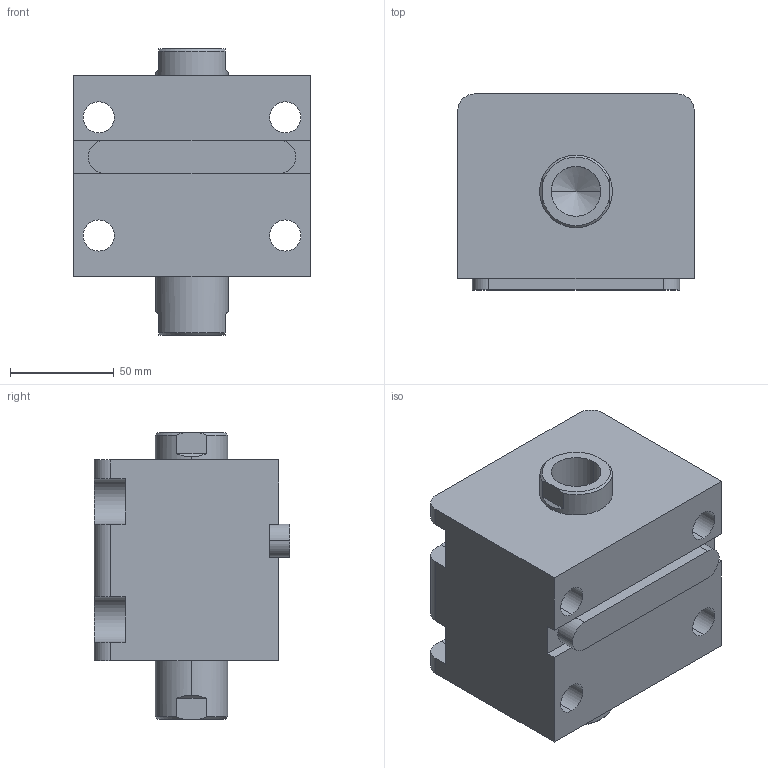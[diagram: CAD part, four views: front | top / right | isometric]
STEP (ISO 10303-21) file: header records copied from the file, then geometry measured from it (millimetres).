
FILE_DESCRIPTION (( 'STEP AP203' ), '1' );
FILE_NAME ('HTB-LW63-15N.STEP', '2019-10-09T08:23:51', ( '微软用户' ), ( '微软中国' ), 'SwSTEP 2.0', 'SolidWorks 2012', '' );
FILE_SCHEMA (( 'CONFIG_CONTROL_DESIGN' ));
Length unit declared in the file: millimetre
Products named in the file (4): HTB-LW63-15N; HTB-LA63-瑩; HTB-LW63-15N活塞杆; HTB-LW63-15掛极
Assembly tree (3 placements, depth 2):
  HTB-LW63-15N
    HTB-LW63-15掛极
    HTB-LW63-15N活塞杆
    HTB-LA63-瑩
Bounding box: 114 x 94.5 x 138 mm (x, y, z)
Volume: 877575.8 mm3; surface area: 125682.9 mm2
Topology: 3 solids, 3 shells, 101 faces, 253 edges, 164 vertices
Faces by surface type: plane 44, cylinder 41, cone 12, torus 4
Entity records: 3467 total; most frequent: CARTESIAN_POINT 576, DIRECTION 549, ORIENTED_EDGE 498, EDGE_CURVE 249, AXIS2_PLACEMENT_3D 209, VERTEX_POINT 164, VECTOR 131, LINE 131
